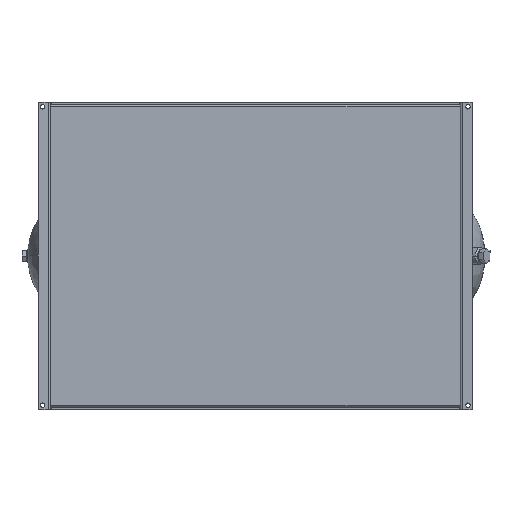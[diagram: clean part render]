
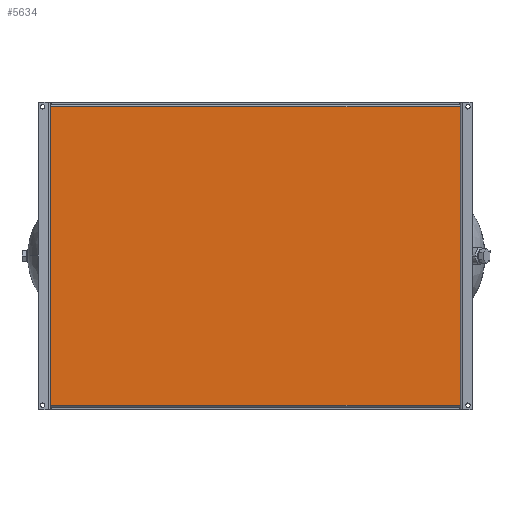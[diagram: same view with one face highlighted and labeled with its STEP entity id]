
A CAD part, front view. The second image highlights one B-rep face of the part: STEP entity #5634.
In plain terms, the highlighted planar face has unit normal (0, -1, 0).
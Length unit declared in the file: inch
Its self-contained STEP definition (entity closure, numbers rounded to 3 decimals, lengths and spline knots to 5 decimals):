
#272 = CARTESIAN_POINT ( 'NONE',  ( 39.981, 2.375, -14.553 ) ) ;
#576 = ORIENTED_EDGE ( 'NONE', *, *, #3901, .T. ) ;
#696 = VERTEX_POINT ( 'NONE', #4331 ) ;
#703 = PLANE ( 'NONE',  #6381 ) ;
#779 = ORIENTED_EDGE ( 'NONE', *, *, #6794, .T. ) ;
#801 = VECTOR ( 'NONE', #5210, 39.37008 ) ;
#1399 = FACE_OUTER_BOUND ( 'NONE', #5234, .T. ) ;
#1897 = CARTESIAN_POINT ( 'NONE',  ( 73.41771, 2.375, -14.553 ) ) ;
#1907 = VERTEX_POINT ( 'NONE', #3773 ) ;
#2380 = DIRECTION ( 'NONE',  ( 0., 0., -1. ) ) ;
#2493 = LINE ( 'NONE', #6912, #801 ) ;
#2595 = EDGE_CURVE ( 'NONE', #4883, #1907, #6855, .T. ) ;
#2855 = DIRECTION ( 'NONE',  ( 0., 0., 1. ) ) ;
#3206 = DIRECTION ( 'NONE',  ( -1., 0., 0. ) ) ;
#3454 = VECTOR ( 'NONE', #5802, 39.37008 ) ;
#3773 = CARTESIAN_POINT ( 'NONE',  ( 0., 2.375, -14.553 ) ) ;
#3781 = ORIENTED_EDGE ( 'NONE', *, *, #2595, .F. ) ;
#3901 = EDGE_CURVE ( 'NONE', #4883, #696, #6777, .T. ) ;
#4013 = CARTESIAN_POINT ( 'NONE',  ( 39.981, 2.375, 14.75 ) ) ;
#4036 = CARTESIAN_POINT ( 'NONE',  ( 73.41771, 2.375, 14.75 ) ) ;
#4331 = CARTESIAN_POINT ( 'NONE',  ( 39.981, 2.375, 14.553 ) ) ;
#4883 = VERTEX_POINT ( 'NONE', #272 ) ;
#5168 = EDGE_CURVE ( 'NONE', #1907, #6776, #2493, .T. ) ;
#5210 = DIRECTION ( 'NONE',  ( 0., 0., 1. ) ) ;
#5234 = EDGE_LOOP ( 'NONE', ( #3781, #576, #779, #6672 ) ) ;
#5350 = CARTESIAN_POINT ( 'NONE',  ( 73.41771, 2.375, 14.553 ) ) ;
#5634 = ADVANCED_FACE ( 'NONE', ( #1399 ), #703, .T. ) ;
#5802 = DIRECTION ( 'NONE',  ( -1., 0., 0. ) ) ;
#6260 = DIRECTION ( 'NONE',  ( 0., -1., 0. ) ) ;
#6381 = AXIS2_PLACEMENT_3D ( 'NONE', #4036, #6260, #2380 ) ;
#6480 = CARTESIAN_POINT ( 'NONE',  ( 0., 2.375, 14.553 ) ) ;
#6672 = ORIENTED_EDGE ( 'NONE', *, *, #5168, .F. ) ;
#6776 = VERTEX_POINT ( 'NONE', #6480 ) ;
#6777 = LINE ( 'NONE', #4013, #7109 ) ;
#6794 = EDGE_CURVE ( 'NONE', #696, #6776, #7163, .T. ) ;
#6855 = LINE ( 'NONE', #1897, #3454 ) ;
#6912 = CARTESIAN_POINT ( 'NONE',  ( 0., 2.375, 14.75 ) ) ;
#7085 = VECTOR ( 'NONE', #3206, 39.37008 ) ;
#7109 = VECTOR ( 'NONE', #2855, 39.37008 ) ;
#7163 = LINE ( 'NONE', #5350, #7085 ) ;
